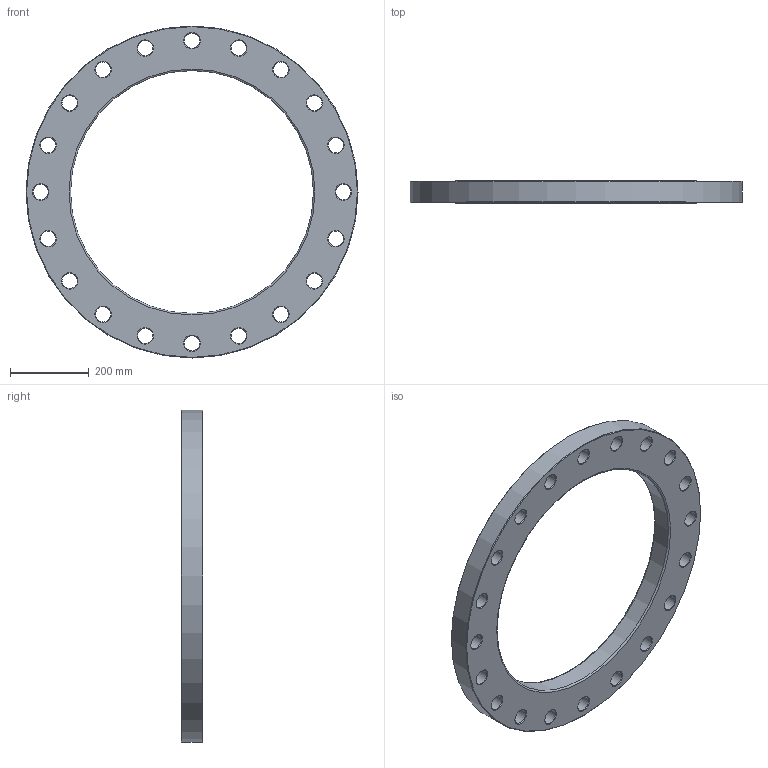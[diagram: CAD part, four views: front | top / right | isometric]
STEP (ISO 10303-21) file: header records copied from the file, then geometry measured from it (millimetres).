
FILE_DESCRIPTION(/* description */ ('Unknown'),/* implementation_level */ '2;1');
FILE_NAME(/* name */ 'FZ560H',/* time_stamp */ '2021-03-15T15:03:47+01:00',/* author */ ('Unknown'),/* organization */ ('Unknown'),/* preprocessor_version */ 'ST-DEVELOPER v16.7',/* originating_system */ 'Solid Edge',/* authorisation */ 'Unknown');
FILE_SCHEMA (('AUTOMOTIVE_DESIGN {1 0 10303 214 3 1 1}'));
Length unit declared in the file: millimetre
Products named in the file (1): FZ560H
Bounding box: 845 x 55 x 845 mm (x, y, z)
Volume: 13006691.6 mm3; surface area: 845929.6 mm2
Topology: 1 solids, 1 shells, 68 faces, 214 edges, 148 vertices
Faces by surface type: cone 42, cylinder 22, plane 2, torus 2
Full cylindrical faces by diameter (mm): 39 x20, 618 x1, 845 x1
Entity records: 1678 total; most frequent: DIRECTION 314, CARTESIAN_POINT 245, ORIENTED_EDGE 176, EDGE_LOOP 176, FACE_BOUND 176, AXIS2_PLACEMENT_3D 157, EDGE_CURVE 88, VERTEX_POINT 88
